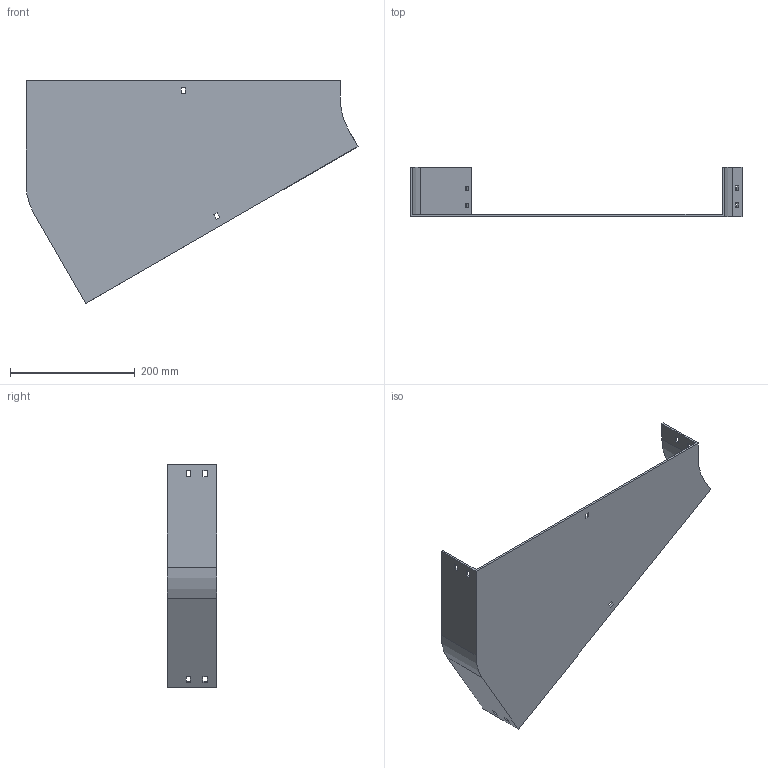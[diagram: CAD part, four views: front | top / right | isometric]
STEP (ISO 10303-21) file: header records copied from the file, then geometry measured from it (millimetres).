
FILE_DESCRIPTION (( 'STEP AP214' ), '1' );
FILE_NAME ('12F1C500.step', '2025-02-21T12:54:47', ( '' ), ( '' ), 'SwSTEP 2.0', 'SolidWorks 2023', '' );
FILE_SCHEMA (( 'AUTOMOTIVE_DESIGN' ));
Length unit declared in the file: millimetre
Products named in the file (1): 12F1C500
Bounding box: 532.4 x 79 x 357.98 mm (x, y, z)
Volume: 566979 mm3; surface area: 331473.9 mm2
Topology: 1 solids, 1 shells, 58 faces, 168 edges, 112 vertices
Faces by surface type: plane 54, cylinder 4
Entity records: 1943 total; most frequent: CARTESIAN_POINT 339, ORIENTED_EDGE 336, DIRECTION 294, EDGE_CURVE 168, LINE 160, VECTOR 160, VERTEX_POINT 112, EDGE_LOOP 78
